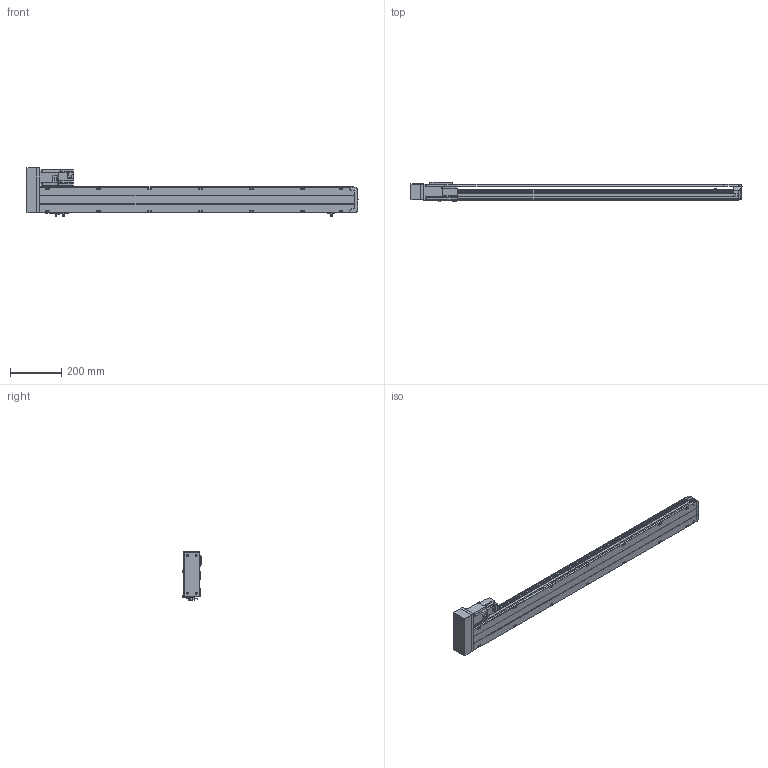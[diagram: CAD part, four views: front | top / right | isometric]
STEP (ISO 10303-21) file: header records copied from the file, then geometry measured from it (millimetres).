
FILE_DESCRIPTION( ( 'STEP AP214' ), '1' );
FILE_NAME( 'x:/temp/worker_27/temp/exporttempdir_6708_89_jqZJW/format_0/PSS120-L10-S1050-BL-T40-C1-N(0).stp', '2022-06-06T00:29:07', ( 'License CC BY-ND 4.0' ), ( 'CADENAS' ), ' ', 'PARTsolutions', ' ' );
FILE_SCHEMA( ( 'AUTOMOTIVE_DESIGN { 1 0 10303 214 1 1 1 1 }' ) );
Length unit declared in the file: millimetre
Products named in the file (8): PSS120-L10-S1050-BL-T40-C1-N(0); _PSS120-S1050-BL-C1-N_body; _PSS120-N_Q; _PSS120-BL-C1-N_sl; _PSS120-N_sensor; _PSS120BL-N_h; _T40-p1; _PSS120-S1050-BL-N_S
Assembly tree (9 placements, depth 2):
  PSS120-L10-S1050-BL-T40-C1-N(0)
    _PSS120-S1050-BL-C1-N_body
    _PSS120-N_Q
    _PSS120-BL-C1-N_sl
    _PSS120-N_sensor  x3
    _PSS120BL-N_h
    _T40-p1
    _PSS120-S1050-BL-N_S
Bounding box: 1299.35 x 76.8 x 191.2 mm (x, y, z)
Volume: 4873964.5 mm3; surface area: 825683.6 mm2
Topology: 9 solids, 9 shells, 864 faces, 2309 edges, 1526 vertices
Faces by surface type: plane 601, cylinder 237, cone 22, sphere 4
Full cylindrical faces by diameter (mm): 2.8 x3, 4 x4, 4.134 x18, 4.4 x2, 4.5 x4, 4.6 x3, 5 x6, 5.5 x21, 7 x2, 7.4 x4, 8 x4, 8.5 x18, 14 x1, 28 x1, 32 x2, 50 x1
Entity records: 29665 total; most frequent: CARTESIAN_POINT 4599, DIRECTION 3877, ORIENTED_EDGE 3766, EDGE_CURVE 1883, LINE 1333, VECTOR 1333, VERTEX_POINT 1308, AXIS2_PLACEMENT_3D 1272
